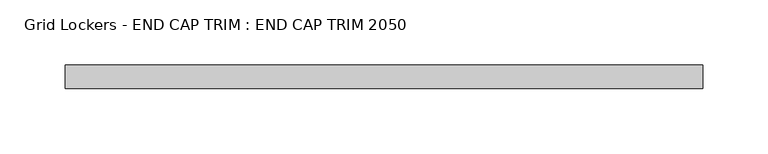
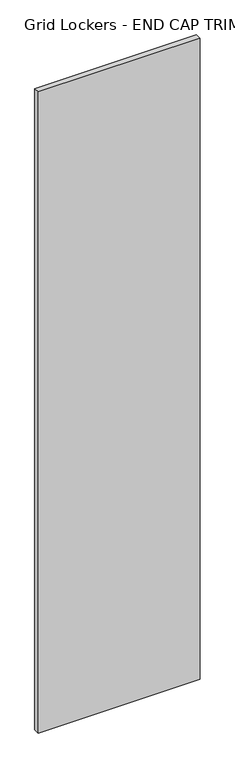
"""IFC4 building model written with IfcOpenShell, lengths in millimetres: furniture geometry, Grid Lockers - END CAP TRIM : END CAP TRIM 2050."""

import ifcopenshell
import ifcopenshell.guid

model = None  # the IFC model being written
_history = None  # IfcOwnerHistory: only IFC2X3 demands one
_inside = {}  # id of a spatial element -> (the spatial element, [elements in it])
_under = {}  # id of a project, library or spatial element -> (it, [spatial elements below it])
_declared = {}  # id of a project -> (the project, [libraries it declares])
_typed = {}  # id of a type object -> (the type object, [elements of that type])
_made_of = {}  # id of a material, layer set ... -> (it, [elements and type objects made of it])


def new_model(schema):
    """Start an empty IFC model of exactly this schema.

    Asked for "IFC4X3", IfcOpenShell would pick the latest addendum, in which some entities
    have other attributes; the version numbers below select the first issue.
    IFC2X3 requires an IfcOwnerHistory on every rooted entity: one is made here for all.
    """
    global model, _history
    if schema == "IFC4X3":
        model = ifcopenshell.file(schema_version=(4, 3, 0, 0))
    else:
        model = ifcopenshell.file(schema=schema)
    _inside.clear()
    _under.clear()
    _declared.clear()
    _typed.clear()
    _made_of.clear()
    _history = None
    if model.schema == "IFC2X3":
        org = make("IfcOrganization", Name="unknown")
        user = make(
            "IfcPersonAndOrganization",
            ThePerson=make("IfcPerson", FamilyName="unknown"),
            TheOrganization=org,
        )
        app = make(
            "IfcApplication",
            ApplicationDeveloper=org,
            Version="unknown",
            ApplicationFullName="unknown",
            ApplicationIdentifier="unknown",
        )
        _history = make(
            "IfcOwnerHistory",
            OwningUser=user,
            OwningApplication=app,
            ChangeAction="ADDED",
            CreationDate=0,
        )
    return model


def make(cls, **values):
    """One entity of the class cls with the attributes given. An attribute that is None is left unset."""
    return model.create_entity(
        cls, **{name: value for name, value in values.items() if value is not None}
    )


def rooted(cls, **values):
    """An entity with a GlobalId (a new one), such as an element, a storey or a relation."""
    return make(cls, GlobalId=ifcopenshell.guid.new(), OwnerHistory=_history, **values)


def si_unit(unit_type, name, prefix=None):
    """IfcSIUnit, for example si_unit("LENGTHUNIT", "METRE", prefix="MILLI")."""
    return make("IfcSIUnit", UnitType=unit_type, Prefix=prefix, Name=name)


def assignment(units):
    """IfcUnitAssignment: the units of a project."""
    return None if units is None else make("IfcUnitAssignment", Units=units)


def point(xyz):
    """IfcCartesianPoint."""
    return None if xyz is None else make("IfcCartesianPoint", Coordinates=xyz)


def direction(xyz):
    """IfcDirection."""
    return None if xyz is None else make("IfcDirection", DirectionRatios=xyz)


def frame(location, z_axis=None, x_axis=None):
    """IfcAxis2Placement3D, a coordinate frame: its origin and axes. An axis left out is left unset."""
    return make(
        "IfcAxis2Placement3D",
        Location=point(location),
        Axis=direction(z_axis),
        RefDirection=direction(x_axis),
    )


def origin():
    """The frame at (0, 0, 0) with its axes left unset."""
    return frame((0.0, 0.0, 0.0))


def origin_with_axes():
    """The frame at (0, 0, 0) with the z axis (0, 0, 1) and the x axis (1, 0, 0) written out."""
    return frame((0.0, 0.0, 0.0), z_axis=(0.0, 0.0, 1.0), x_axis=(1.0, 0.0, 0.0))


def place(relative_to, where):
    """IfcLocalPlacement: puts the frame where relative to a parent placement (None: the world)."""
    return make(
        "IfcLocalPlacement", PlacementRelTo=relative_to, RelativePlacement=where
    )


def context(
    kind, dimensions, precision=None, world=None, true_north=None, identifier=None
):
    """IfcGeometricRepresentationContext, for example the 3D "Model" context."""
    return make(
        "IfcGeometricRepresentationContext",
        ContextIdentifier=identifier,
        ContextType=kind,
        CoordinateSpaceDimension=dimensions,
        Precision=precision,
        WorldCoordinateSystem=world,
        TrueNorth=true_north,
    )


def project(units=None, contexts=None):
    """IfcProject with its units and contexts."""
    return rooted(
        "IfcProject",
        Name="project",
        RepresentationContexts=contexts,
        UnitsInContext=assignment(units),
    )


def spatial(cls, under=None, at=None, **own):
    """A site, building, storey or space (cls), placed at a placement, below another one or the project."""
    s = rooted(cls, ObjectPlacement=at, **own)
    if under is not None:
        _under.setdefault(under.id(), (under, []))[1].append(s)
    return s


def polyline(points):
    """IfcPolyline through the points."""
    return make("IfcPolyline", Points=[point(p) for p in points])


def outline(outer, holes=None, kind="AREA"):
    """IfcArbitraryClosedProfileDef: a profile drawn as a closed curve; with holes, ...WithVoids."""
    if holes is None:
        return make("IfcArbitraryClosedProfileDef", ProfileType=kind, OuterCurve=outer)
    return make(
        "IfcArbitraryProfileDefWithVoids",
        ProfileType=kind,
        OuterCurve=outer,
        InnerCurves=holes,
    )


def extrude(swept, where, along, depth):
    """IfcExtrudedAreaSolid: the profile swept, set in the frame where, extruded along a direction by depth."""
    return make(
        "IfcExtrudedAreaSolid",
        SweptArea=swept,
        Position=where,
        ExtrudedDirection=direction(along),
        Depth=depth,
    )


def shape(context_of_items, identifier, shape_type, items):
    """IfcShapeRepresentation: the items that make up one representation, for example the "Body"."""
    return make(
        "IfcShapeRepresentation",
        ContextOfItems=context_of_items,
        RepresentationIdentifier=identifier,
        RepresentationType=shape_type,
        Items=items,
    )


def source(mapping_origin, context_of_items, identifier, shape_type, items):
    """IfcRepresentationMap: a shape defined once, which mapped items show again and again."""
    return make(
        "IfcRepresentationMap",
        MappingOrigin=mapping_origin,
        MappedRepresentation=shape(context_of_items, identifier, shape_type, items),
    )


def transform(
    local_origin,
    x_axis=None,
    y_axis=None,
    z_axis=None,
    scale=None,
    scale2=None,
    scale3=None,
    uniform=True,
):
    """IfcCartesianTransformationOperator3D, or its non-uniform kind. x_axis, y_axis, z_axis: its Axis1, 2, 3."""
    if uniform:
        return make(
            "IfcCartesianTransformationOperator3D",
            Axis1=direction(x_axis),
            Axis2=direction(y_axis),
            LocalOrigin=point(local_origin),
            Scale=scale,
            Axis3=direction(z_axis),
        )
    return make(
        "IfcCartesianTransformationOperator3DnonUniform",
        Axis1=direction(x_axis),
        Axis2=direction(y_axis),
        LocalOrigin=point(local_origin),
        Scale=scale,
        Axis3=direction(z_axis),
        Scale2=scale2,
        Scale3=scale3,
    )


def mapped(mapping_source, mapping_target):
    """IfcMappedItem: shows the shape of a source again, moved by a transform."""
    return make(
        "IfcMappedItem", MappingSource=mapping_source, MappingTarget=mapping_target
    )


def made_of(thing, what):
    """Note that an element or type object is made of a material, layer set ...; save() writes the relation."""
    if what is not None:
        _made_of.setdefault(what.id(), (what, []))[1].append(thing)
    return thing


def element(
    cls,
    number,
    at=None,
    inside=None,
    cuts=None,
    type_object=None,
    material=None,
    context=None,
    identifier="Body",
    shape_type=None,
    held_by="IfcProductDefinitionShape",
    body=None,
    shapes=None,
    **own,
):
    """One element of the class cls, such as IfcWall. Its Tag is "e" and its number.

    at: its placement. inside: the storey or other place that contains it. cuts: it is an
    opening in that element (IfcRelVoidsElement). A single representation is given by context,
    identifier, shape_type and body (its items); several are given by shapes. held_by: the class
    of the entity that holds the representations. save() writes the other relations.
    """
    e = rooted(cls, Tag="e%d" % number, ObjectPlacement=at, **own)
    if body is not None:
        shapes = [shape(context, identifier, shape_type, body)]
    if shapes is not None:
        e.Representation = make(held_by, Representations=shapes)
    if inside is not None:
        _inside.setdefault(inside.id(), (inside, []))[1].append(e)
    if cuts is not None:
        rooted(
            "IfcRelVoidsElement", RelatingBuildingElement=cuts, RelatedOpeningElement=e
        )
    if type_object is not None:
        _typed.setdefault(type_object.id(), (type_object, []))[1].append(e)
    return made_of(e, material)


def aggregate(whole, parts):
    """IfcRelAggregates: a whole, such as a stair, and the parts it consists of."""
    return rooted("IfcRelAggregates", RelatingObject=whole, RelatedObjects=parts)


def save(model, path):
    """Write the relations noted so far, then the file.

    IfcRelAggregates (storeys below a building ...), IfcRelContainedInSpatialStructure (elements
    in a storey), IfcRelDefinesByType, IfcRelAssociatesMaterial and IfcRelDeclares: one each for
    every whole, place, type object, material and project.
    """
    for whole, parts in _under.values():
        aggregate(whole, parts)
    for where, things in _inside.values():
        rooted(
            "IfcRelContainedInSpatialStructure",
            RelatedElements=things,
            RelatingStructure=where,
        )
    for kind, things in _typed.values():
        rooted("IfcRelDefinesByType", RelatedObjects=things, RelatingType=kind)
    for what, things in _made_of.values():
        rooted("IfcRelAssociatesMaterial", RelatedObjects=things, RelatingMaterial=what)
    for by, libraries in _declared.values():
        rooted("IfcRelDeclares", RelatingContext=by, RelatedDefinitions=libraries)
    model.write(path)


def grid_lockers_end_cap_trim_end_cap_trim_2050_ac4df2dc(model_context):
    return source(origin(), model_context, "Body", "SweptSolid", [
        extrude(outline(polyline([(490.0, -18.0), (0.0, -18.0), (0.0, 0.0), (490.0, 0.0), (490.0, -18.0)])), origin_with_axes(), (0.0, 0.0, 1.0), 2050.0),
    ])


if __name__ == "__main__":
    model = new_model("IFC4")
    model_context = context("Model", 3, world=origin())
    ifc_project = project(units=[si_unit("LENGTHUNIT", "METRE", prefix="MILLI")], contexts=[model_context])
    site = spatial("IfcSite", under=ifc_project)
    building = spatial("IfcBuilding", under=site)
    placement = place(None, origin())
    grid_lockers_end_cap_trim_end_cap_trim_2050_shape = grid_lockers_end_cap_trim_end_cap_trim_2050_ac4df2dc(model_context)
    element("IfcFurniture", 1, ObjectType="Grid Lockers - END CAP TRIM : END CAP TRIM 2050", at=placement, inside=building, context=model_context, shape_type="MappedRepresentation", body=[
        mapped(grid_lockers_end_cap_trim_end_cap_trim_2050_shape, transform((0.0, 0.0, 0.0), x_axis=(1.0, 0.0, 0.0), y_axis=(0.0, 1.0, 0.0), z_axis=(0.0, 0.0, 1.0))),
    ])
    save(model, "model.ifc")
